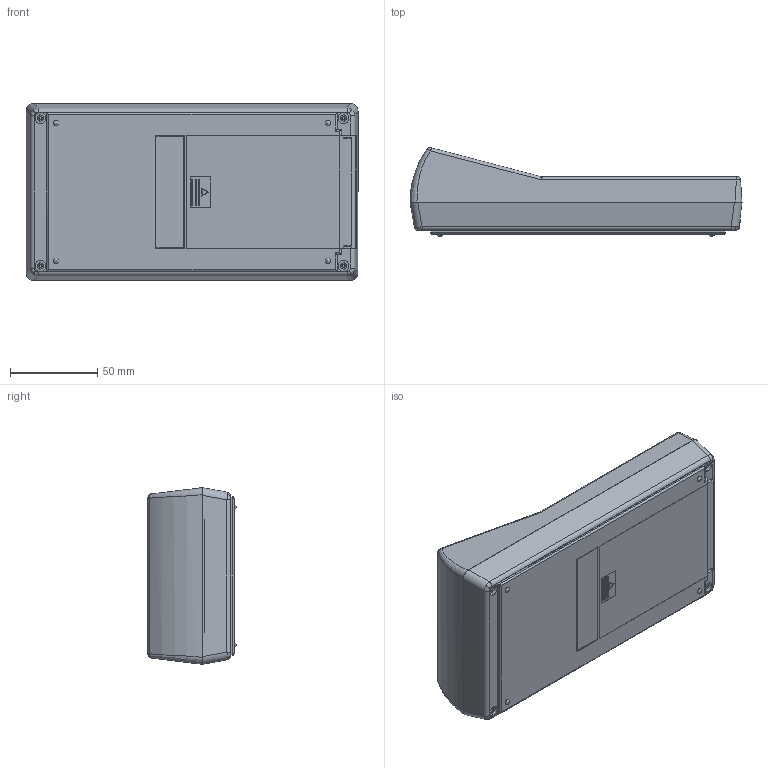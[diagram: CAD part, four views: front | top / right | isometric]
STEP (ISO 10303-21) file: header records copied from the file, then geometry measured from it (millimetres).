
FILE_DESCRIPTION (( 'STEP AP214' ), '1' );
FILE_NAME ('90-52-6A-R.STEP', '2019-12-01T16:02:33', ( 'Rudy' ), ( '' ), 'SwSTEP 2.0', 'SolidWorks 2014', '' );
FILE_SCHEMA (( 'AUTOMOTIVE_DESIGN' ));
Length unit declared in the file: millimetre
Products named in the file (5): 90-52-6A-R; 6AAdoor; 100 bessel; 100 Top Angled LCD; 100-02 BOT-6AA
Assembly tree (4 placements, depth 2):
  90-52-6A-R
    100-02 BOT-6AA
    100 Top Angled LCD
    100 bessel
    6AAdoor
Bounding box: 190.6 x 50.79 x 101.4 mm (x, y, z)
Volume: 130014.6 mm3; surface area: 141853.6 mm2
Topology: 4 solids, 4 shells, 912 faces, 2497 edges, 1617 vertices
Faces by surface type: plane 680, cylinder 168, cone 24, bspline 24, torus 12, sphere 4
Entity records: 29787 total; most frequent: CARTESIAN_POINT 6691, ORIENTED_EDGE 4960, DIRECTION 4450, EDGE_CURVE 2480, VECTOR 2004, LINE 2004, VERTEX_POINT 1609, AXIS2_PLACEMENT_3D 1223
